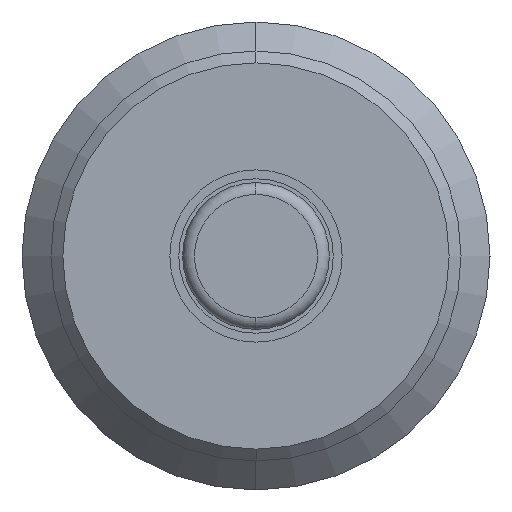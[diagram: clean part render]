
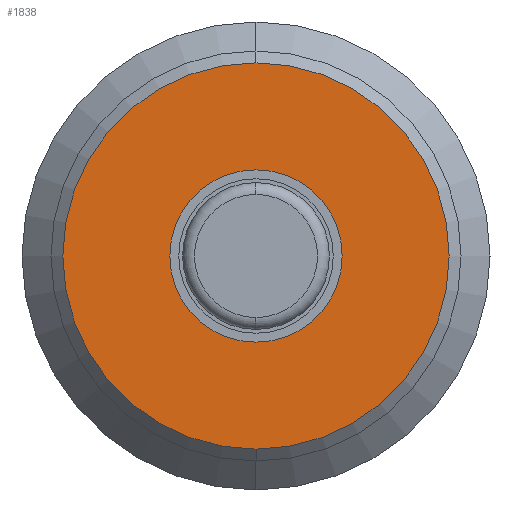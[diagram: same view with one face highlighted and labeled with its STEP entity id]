
A CAD part, left-side view. The second image highlights one B-rep face of the part: STEP entity #1838.
In plain terms, the highlighted planar face has unit normal (-1, 0, 0).
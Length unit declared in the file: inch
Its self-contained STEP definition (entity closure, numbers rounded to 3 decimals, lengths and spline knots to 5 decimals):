
#46 = CIRCLE ( 'NONE', #75, 0.0725 ) ;
#71 = CARTESIAN_POINT ( 'NONE',  ( -0.884, 0., -0.0725 ) ) ;
#72 = DIRECTION ( 'NONE',  ( 0., 0., -1. ) ) ;
#73 = DIRECTION ( 'NONE',  ( 1., 0., 0. ) ) ;
#74 = CARTESIAN_POINT ( 'NONE',  ( -0.884, 0., 0. ) ) ;
#75 = AXIS2_PLACEMENT_3D ( 'NONE', #74, #73, #72 ) ;
#98 = AXIS2_PLACEMENT_3D ( 'NONE', #112, #111, #110 ) ;
#99 = PLANE ( 'NONE',  #98 ) ;
#110 = DIRECTION ( 'NONE',  ( 0., 0., -1. ) ) ;
#111 = DIRECTION ( 'NONE',  ( 1., 0., 0. ) ) ;
#112 = CARTESIAN_POINT ( 'NONE',  ( -0.884, 0., 0. ) ) ;
#118 = FACE_BOUND ( 'NONE', #1837, .T. ) ;
#119 = FACE_OUTER_BOUND ( 'NONE', #1834, .T. ) ;
#120 = CARTESIAN_POINT ( 'NONE',  ( -0.884, 0., 0.0725 ) ) ;
#210 = DIRECTION ( 'NONE',  ( 0., 0., -1. ) ) ;
#211 = DIRECTION ( 'NONE',  ( 1., 0., 0. ) ) ;
#212 = CARTESIAN_POINT ( 'NONE',  ( -0.884, 0., 0. ) ) ;
#213 = AXIS2_PLACEMENT_3D ( 'NONE', #212, #211, #210 ) ;
#260 = CIRCLE ( 'NONE', #213, 0.0725 ) ;
#1406 = DIRECTION ( 'NONE',  ( 0., 0., -1. ) ) ;
#1407 = DIRECTION ( 'NONE',  ( -1., 0., 0. ) ) ;
#1408 = CARTESIAN_POINT ( 'NONE',  ( -0.884, 0., 0. ) ) ;
#1409 = AXIS2_PLACEMENT_3D ( 'NONE', #1408, #1407, #1406 ) ;
#1410 = CIRCLE ( 'NONE', #1409, 0.1625 ) ;
#1531 = EDGE_CURVE ( 'NONE', #1532, #1533, #2306, .T. ) ;
#1532 = VERTEX_POINT ( 'NONE', #2413 ) ;
#1533 = VERTEX_POINT ( 'NONE', #2412 ) ;
#1762 = ORIENTED_EDGE ( 'NONE', *, *, #1763, .T. ) ;
#1763 = EDGE_CURVE ( 'NONE', #1533, #1532, #1410, .T. ) ;
#1833 = ORIENTED_EDGE ( 'NONE', *, *, #1947, .T. ) ;
#1834 = EDGE_LOOP ( 'NONE', ( #1762, #1836 ) ) ;
#1835 = VERTEX_POINT ( 'NONE', #120 ) ;
#1836 = ORIENTED_EDGE ( 'NONE', *, *, #1531, .T. ) ;
#1837 = EDGE_LOOP ( 'NONE', ( #1833, #1853 ) ) ;
#1838 = ADVANCED_FACE ( 'NONE', ( #119, #118 ), #99, .F. ) ;
#1853 = ORIENTED_EDGE ( 'NONE', *, *, #1854, .T. ) ;
#1854 = EDGE_CURVE ( 'NONE', #1835, #1857, #46, .T. ) ;
#1857 = VERTEX_POINT ( 'NONE', #71 ) ;
#1947 = EDGE_CURVE ( 'NONE', #1857, #1835, #260, .T. ) ;
#2306 = CIRCLE ( 'NONE', #2416, 0.1625 ) ;
#2312 = CARTESIAN_POINT ( 'NONE',  ( -0.884, 0., 0. ) ) ;
#2412 = CARTESIAN_POINT ( 'NONE',  ( -0.884, 0., -0.1625 ) ) ;
#2413 = CARTESIAN_POINT ( 'NONE',  ( -0.884, 0., 0.1625 ) ) ;
#2414 = DIRECTION ( 'NONE',  ( 0., 0., -1. ) ) ;
#2415 = DIRECTION ( 'NONE',  ( -1., 0., 0. ) ) ;
#2416 = AXIS2_PLACEMENT_3D ( 'NONE', #2312, #2415, #2414 ) ;
